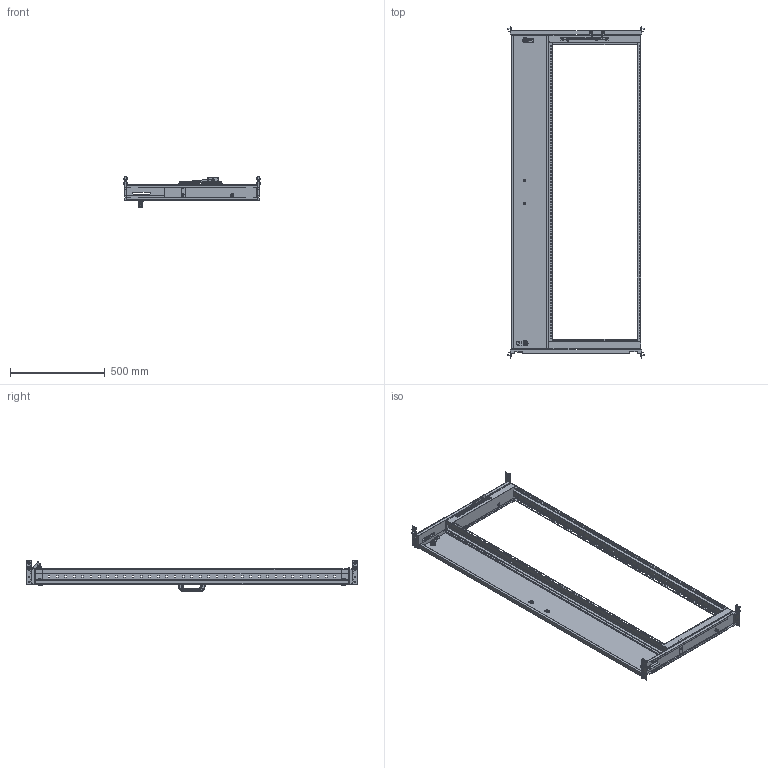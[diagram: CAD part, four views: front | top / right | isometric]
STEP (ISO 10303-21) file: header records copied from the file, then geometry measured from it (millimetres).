
FILE_DESCRIPTION(('Open CASCADE Model'),'2;1');
FILE_NAME('Open CASCADE Shape Model','2025-03-20T10:46:50',('Author'),( 'Open CASCADE'),'Open CASCADE STEP processor 7.8','Open CASCADE 7.8' ,'Unknown');
FILE_SCHEMA(('AUTOMOTIVE_DESIGN { 1 0 10303 214 1 1 1 1 }'));
Length unit declared in the file: millimetre
Products named in the file (34): Compound1; Compound2; Solid1; Solid2; Solid3; Compound3; Solid4; Solid5; Solid6; Solid7; Compound4; Solid8; Solid9; Solid10; Solid11; Solid12; Solid13; Solid14; Solid15; Solid16; Solid17; Solid18; Solid19; Solid20; Solid21; Solid22; Solid23; Solid24; Solid25; Compound5; Solid26; Solid27; Solid28; Solid29
Assembly tree (56 placements, depth 3):
  Compound1
    Compound2
      Solid1
      Solid2  x2
      Solid3
    Compound3
      Solid4
      Solid2  x2
      Solid3
    Solid5  x2
    Solid6  x2
    Solid7
    Compound4
      Solid8  x2
      Solid9
      Solid10  x2
      Solid11
      Solid12  x2
      Solid13
      Solid14  x2
    Solid15
    Solid16  x2
    Solid17  x2
    Solid18
    Solid19
    Solid20
    Solid21
    Solid22
    Solid23  x2
    Solid24  x4
    Solid25  x8
    Compound5
      Solid26
      Solid27
    Solid28
    Solid29
Bounding box: 726 x 1755 x 165.5 mm (x, y, z)
Volume: 2205432.4 mm3; surface area: 2824584.9 mm2
Topology: 54 solids, 74 shells, 5781 faces, 16160 edges, 10461 vertices
Faces by surface type: plane 3660, cylinder 728, bspline 672, cone 467, torus 176, sphere 78
Entity records: 139837 total; most frequent: CARTESIAN_POINT 51732, ORIENTED_EDGE 19418, DIRECTION 15733, EDGE_CURVE 9888, VERTEX_POINT 6383, LINE 6371, VECTOR 6371, AXIS2_PLACEMENT_3D 4681
